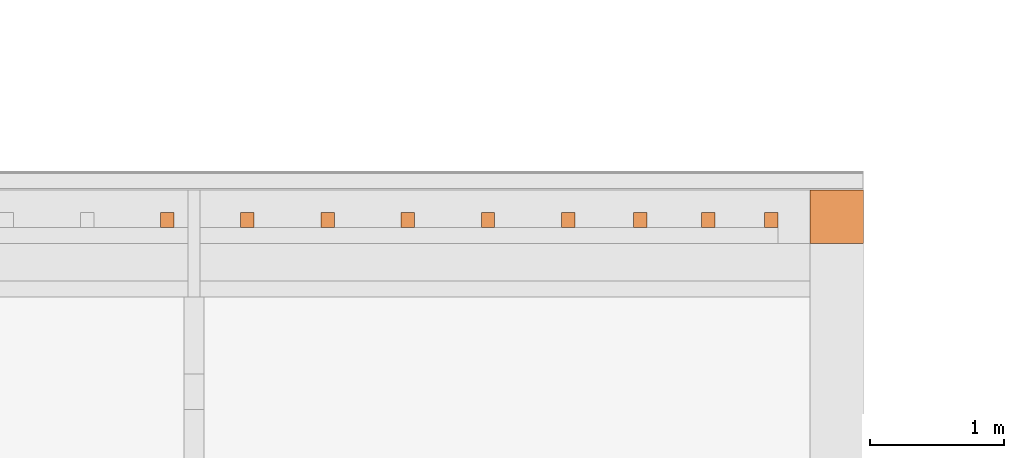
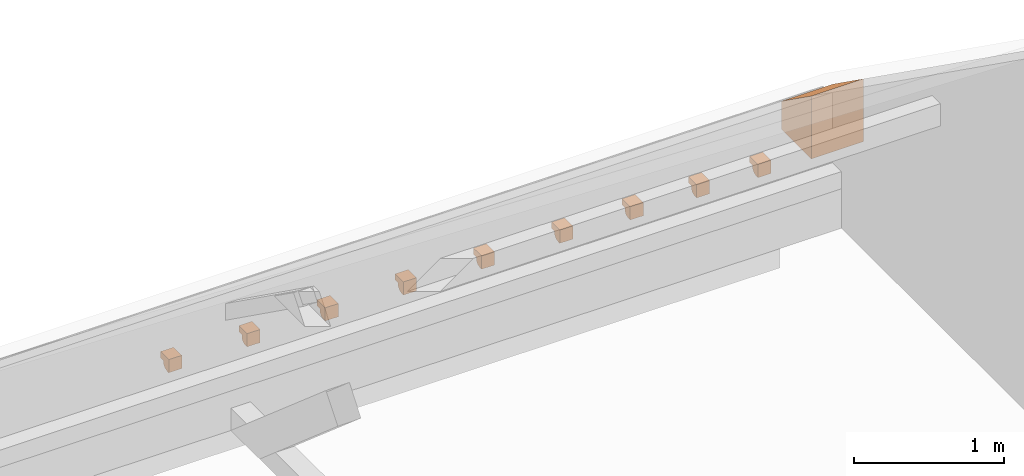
"""IFC4 building model written with IfcOpenShell, lengths in metres."""

from ifc_helpers import new_model, entity, si_unit, converted_unit, derived_unit, frame, origin, place, context, subcontext, project, spatial, faceted_brep, element, save


model = new_model("IFC4")

# Units and contexts
model_context = context("Model", 3, precision=1e-05, world=origin())
body_context = subcontext(model_context, "Body", "Model", "MODEL_VIEW")
ifc_project = project(units=[si_unit("LENGTHUNIT", "METRE"), si_unit("AREAUNIT", "SQUARE_METRE"), si_unit("VOLUMEUNIT", "CUBIC_METRE"), si_unit("MASSUNIT", "GRAM", prefix="KILO"), converted_unit("PLANEANGLEUNIT", "DEGREE", entity("IfcPlaneAngleMeasure", 0.0174532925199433), si_unit("PLANEANGLEUNIT", "RADIAN"), dimensions=[0, 0, 0, 0, 0, 0, 0]), derived_unit("THERMALTRANSMITTANCEUNIT", [(si_unit("POWERUNIT", "WATT"), 1), (si_unit("THERMODYNAMICTEMPERATUREUNIT", "KELVIN"), -1), (si_unit("LENGTHUNIT", "METRE"), -2)]), derived_unit("VOLUMETRICFLOWRATEUNIT", [(si_unit("LENGTHUNIT", "METRE"), 3), (converted_unit("TIMEUNIT", "hour", entity("IfcTimeMeasure", 3600.0), si_unit("TIMEUNIT", "SECOND"), dimensions=[0, 0, 1, 0, 0, 0, 0]), -1), (si_unit("LENGTHUNIT", "METRE"), -1)])], contexts=[model_context])

# Building, storeys
building_placement = place(None, origin())
building = spatial("IfcBuilding", under=ifc_project, at=building_placement, Name="Bestandsgebäude A - Sporthalle / Wohnhaus (TB 100-499)   ANPASSEN !!!", CompositionType="ELEMENT")
storey_1_placement = place(building_placement, frame((0.0, 0.0, 3.87)))
storey_1 = spatial("IfcBuildingStorey", under=building, at=storey_1_placement, Name="Geb. A 1. Obergeschoss (TB 250-299)", CompositionType="ELEMENT", Elevation=3.87)
storey_2_placement = place(storey_1_placement, frame((0.0, 0.0, 3.87)))
storey_2 = spatial("IfcBuildingStorey", under=storey_1, at=storey_2_placement, Name="Architektur (TB 250-259)", CompositionType="PARTIAL")

# Proxies
proxy_1_placement = place(storey_2_placement, frame((-10.7600000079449, 13.1200014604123, -1.12676065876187)))
element("IfcBuildingElementProxy", 1, at=proxy_1_placement, inside=storey_2, context=body_context, shape_type="Brep", body=[
    faceted_brep([(0.100000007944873, 0.0, 0.10676065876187), (0.100000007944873, 0.0, 0.0), (0.0, 0.0, 0.0), (0.0, 0.0, 0.10676065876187), (0.100000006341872, 0.0221942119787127, 0.0), (0.0, 0.0221942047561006, 0.0), (0.100000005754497, 0.0303266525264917, 0.00115963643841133), (0.0, 0.0303266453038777, 0.00115963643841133), (0.100000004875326, 0.0424991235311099, 0.00476296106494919), (0.0, 0.042499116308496, 0.00476296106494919), (0.100000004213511, 0.0516622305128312, 0.00852666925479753), (0.0, 0.0516622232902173, 0.00852666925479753), (0.10000000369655, 0.0588197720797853, 0.0140969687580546), (0.0, 0.0588197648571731, 0.0140969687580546), (0.100000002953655, 0.069105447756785, 0.0295254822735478), (0.0, 0.0691054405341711, 0.0295254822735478), (0.100000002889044, 0.0700000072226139, 0.0333518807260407), (0.0, 0.07, 0.0333518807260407), (0.100000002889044, 0.0700000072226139, 0.0567606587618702), (0.0, 0.07, 0.0567606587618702), (0.1, 0.110000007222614, 0.0567606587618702), (0.0, 0.11, 0.0567606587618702), (0.1, 0.110000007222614, 0.10676065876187), (0.0, 0.11, 0.10676065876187)], [[[0, 1, 2, 3]], [[1, 4, 5, 2]], [[4, 6, 7, 5]], [[6, 8, 9, 7]], [[8, 10, 11, 9]], [[10, 12, 13, 11]], [[12, 14, 15, 13]], [[14, 16, 17, 15]], [[16, 18, 19, 17]], [[18, 20, 21, 19]], [[20, 22, 23, 21]], [[22, 0, 3, 23]], [[0, 22, 20, 18, 16, 14, 12, 10, 8, 6, 4, 1]], [[3, 2, 5, 7, 9, 11, 13, 15, 17, 19, 21, 23]]], orient=[[False], [False], [False], [False], [False], [False], [False], [False], [False], [False], [False], [False], [False], [False]]),
])
proxy_2_placement = place(storey_2_placement, frame((-11.3600000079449, 13.1200014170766, -1.12676065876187)))
element("IfcBuildingElementProxy", 2, at=proxy_2_placement, inside=storey_2, context=body_context, shape_type="Brep", body=[
    faceted_brep([(0.100000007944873, 0.0, 0.10676065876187), (0.100000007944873, 0.0, 0.0), (0.0, 0.0, 0.0), (0.0, 0.0, 0.10676065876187), (0.100000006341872, 0.0221942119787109, 0.0), (0.0, 0.0221942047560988, 0.0), (0.100000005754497, 0.0303266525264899, 0.00115963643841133), (0.0, 0.0303266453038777, 0.00115963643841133), (0.100000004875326, 0.0424991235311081, 0.00476296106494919), (0.0, 0.042499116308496, 0.00476296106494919), (0.100000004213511, 0.0516622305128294, 0.00852666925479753), (0.0, 0.0516622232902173, 0.00852666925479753), (0.10000000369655, 0.0588197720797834, 0.0140969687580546), (0.0, 0.0588197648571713, 0.0140969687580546), (0.100000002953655, 0.0691054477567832, 0.0295254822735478), (0.0, 0.0691054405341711, 0.0295254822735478), (0.100000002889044, 0.0700000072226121, 0.0333518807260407), (0.0, 0.07, 0.0333518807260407), (0.100000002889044, 0.0700000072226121, 0.0567606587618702), (0.0, 0.07, 0.0567606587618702), (0.1, 0.110000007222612, 0.0567606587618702), (0.0, 0.11, 0.0567606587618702), (0.1, 0.110000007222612, 0.10676065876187), (0.0, 0.11, 0.10676065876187)], [[[0, 1, 2, 3]], [[1, 4, 5, 2]], [[4, 6, 7, 5]], [[6, 8, 9, 7]], [[8, 10, 11, 9]], [[10, 12, 13, 11]], [[12, 14, 15, 13]], [[14, 16, 17, 15]], [[16, 18, 19, 17]], [[18, 20, 21, 19]], [[20, 22, 23, 21]], [[22, 0, 3, 23]], [[0, 22, 20, 18, 16, 14, 12, 10, 8, 6, 4, 1]], [[3, 2, 5, 7, 9, 11, 13, 15, 17, 19, 21, 23]]], orient=[[False], [False], [False], [False], [False], [False], [False], [False], [False], [False], [False], [False], [False], [False]]),
])
proxy_3_placement = place(storey_2_placement, frame((-12.5600000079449, 13.1200013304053, -1.12676065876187)))
element("IfcBuildingElementProxy", 3, at=proxy_3_placement, inside=storey_2, context=body_context, shape_type="Brep", body=[
    faceted_brep([(0.100000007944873, 0.0, 0.10676065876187), (0.100000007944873, 0.0, 0.0), (0.0, 0.0, 0.0), (0.0, 0.0, 0.10676065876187), (0.100000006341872, 0.0221942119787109, 0.0), (0.0, 0.022194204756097, 0.0), (0.100000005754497, 0.030326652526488, 0.00115963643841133), (0.0, 0.0303266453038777, 0.00115963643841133), (0.100000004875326, 0.0424991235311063, 0.00476296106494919), (0.0, 0.042499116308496, 0.00476296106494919), (0.100000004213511, 0.0516622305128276, 0.00852666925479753), (0.0, 0.0516622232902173, 0.00852666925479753), (0.100000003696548, 0.0588197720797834, 0.0140969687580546), (0.0, 0.0588197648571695, 0.0140969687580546), (0.100000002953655, 0.0691054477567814, 0.0295254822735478), (0.0, 0.0691054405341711, 0.0295254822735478), (0.100000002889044, 0.0700000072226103, 0.0333518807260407), (0.0, 0.07, 0.0333518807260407), (0.100000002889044, 0.0700000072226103, 0.0567606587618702), (0.0, 0.07, 0.0567606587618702), (0.0999999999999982, 0.11000000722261, 0.0567606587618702), (0.0, 0.11, 0.0567606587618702), (0.0999999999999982, 0.11000000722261, 0.10676065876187), (0.0, 0.11, 0.10676065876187)], [[[0, 1, 2, 3]], [[1, 4, 5, 2]], [[4, 6, 7, 5]], [[6, 8, 9, 7]], [[8, 10, 11, 9]], [[10, 12, 13, 11]], [[12, 14, 15, 13]], [[14, 16, 17, 15]], [[16, 18, 19, 17]], [[18, 20, 21, 19]], [[20, 22, 23, 21]], [[22, 0, 3, 23]], [[0, 22, 20, 18, 16, 14, 12, 10, 8, 6, 4, 1]], [[3, 2, 5, 7, 9, 11, 13, 15, 17, 19, 21, 23]]], orient=[[False], [False], [False], [False], [False], [False], [False], [False], [False], [False], [False], [False], [False], [False]]),
])
proxy_4_placement = place(storey_2_placement, frame((-11.9600000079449, 13.1200013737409, -1.12676065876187)))
element("IfcBuildingElementProxy", 4, at=proxy_4_placement, inside=storey_2, context=body_context, shape_type="Brep", body=[
    faceted_brep([(0.100000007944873, 0.0, 0.10676065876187), (0.100000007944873, 0.0, 0.0), (0.0, 0.0, 0.0), (0.0, 0.0, 0.10676065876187), (0.100000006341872, 0.0221942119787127, 0.0), (0.0, 0.0221942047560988, 0.0), (0.100000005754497, 0.0303266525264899, 0.00115963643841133), (0.0, 0.0303266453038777, 0.00115963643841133), (0.100000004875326, 0.0424991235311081, 0.00476296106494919), (0.0, 0.042499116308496, 0.00476296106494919), (0.100000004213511, 0.0516622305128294, 0.00852666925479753), (0.0, 0.0516622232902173, 0.00852666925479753), (0.100000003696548, 0.0588197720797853, 0.0140969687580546), (0.0, 0.0588197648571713, 0.0140969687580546), (0.100000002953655, 0.0691054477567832, 0.0295254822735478), (0.0, 0.0691054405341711, 0.0295254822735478), (0.100000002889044, 0.0700000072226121, 0.0333518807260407), (0.0, 0.07, 0.0333518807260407), (0.100000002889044, 0.0700000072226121, 0.0567606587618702), (0.0, 0.07, 0.0567606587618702), (0.1, 0.110000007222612, 0.0567606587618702), (0.0, 0.11, 0.0567606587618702), (0.1, 0.110000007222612, 0.10676065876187), (0.0, 0.11, 0.10676065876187)], [[[0, 1, 2, 3]], [[1, 4, 5, 2]], [[4, 6, 7, 5]], [[6, 8, 9, 7]], [[8, 10, 11, 9]], [[10, 12, 13, 11]], [[12, 14, 15, 13]], [[14, 16, 17, 15]], [[16, 18, 19, 17]], [[18, 20, 21, 19]], [[20, 22, 23, 21]], [[22, 0, 3, 23]], [[0, 22, 20, 18, 16, 14, 12, 10, 8, 6, 4, 1]], [[3, 2, 5, 7, 9, 11, 13, 15, 17, 19, 21, 23]]], orient=[[False], [False], [False], [False], [False], [False], [False], [False], [False], [False], [False], [False], [False], [False]]),
])
proxy_5_placement = place(storey_2_placement, frame((-13.1600000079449, 13.1200012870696, -1.12676065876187)))
element("IfcBuildingElementProxy", 5, at=proxy_5_placement, inside=storey_2, context=body_context, shape_type="Brep", body=[
    faceted_brep([(0.100000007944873, 0.0, 0.10676065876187), (0.100000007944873, 0.0, 0.0), (0.0, 0.0, 0.0), (0.0, 0.0, 0.10676065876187), (0.100000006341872, 0.0221942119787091, 0.0), (0.0, 0.0221942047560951, 0.0), (0.100000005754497, 0.030326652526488, 0.00115963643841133), (0.0, 0.0303266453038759, 0.00115963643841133), (0.100000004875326, 0.0424991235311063, 0.00476296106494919), (0.0, 0.0424991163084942, 0.00476296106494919), (0.100000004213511, 0.0516622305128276, 0.00852666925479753), (0.0, 0.0516622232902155, 0.00852666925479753), (0.100000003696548, 0.0588197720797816, 0.0140969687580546), (0.0, 0.0588197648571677, 0.0140969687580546), (0.100000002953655, 0.0691054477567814, 0.0295254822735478), (0.0, 0.0691054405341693, 0.0295254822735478), (0.100000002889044, 0.0700000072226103, 0.0333518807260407), (0.0, 0.0699999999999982, 0.0333518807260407), (0.100000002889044, 0.0700000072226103, 0.0567606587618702), (0.0, 0.0699999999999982, 0.0567606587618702), (0.0999999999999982, 0.11000000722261, 0.0567606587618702), (0.0, 0.109999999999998, 0.0567606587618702), (0.0999999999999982, 0.11000000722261, 0.10676065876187), (0.0, 0.109999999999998, 0.10676065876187)], [[[0, 1, 2, 3]], [[1, 4, 5, 2]], [[4, 6, 7, 5]], [[6, 8, 9, 7]], [[8, 10, 11, 9]], [[10, 12, 13, 11]], [[12, 14, 15, 13]], [[14, 16, 17, 15]], [[16, 18, 19, 17]], [[18, 20, 21, 19]], [[20, 22, 23, 21]], [[22, 0, 3, 23]], [[0, 22, 20, 18, 16, 14, 12, 10, 8, 6, 4, 1]], [[3, 2, 5, 7, 9, 11, 13, 15, 17, 19, 21, 23]]], orient=[[False], [False], [False], [False], [False], [False], [False], [False], [False], [False], [False], [False], [False], [False]]),
])
proxy_6_placement = place(storey_2_placement, frame((-13.7600000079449, 13.1200012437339, -1.12676065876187)))
element("IfcBuildingElementProxy", 6, at=proxy_6_placement, inside=storey_2, context=body_context, shape_type="Brep", body=[
    faceted_brep([(0.100000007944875, 0.0, 0.10676065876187), (0.100000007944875, 0.0, 0.0), (0.0, 0.0, 0.0), (0.0, 0.0, 0.10676065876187), (0.100000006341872, 0.0221942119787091, 0.0), (0.0, 0.022194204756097, 0.0), (0.100000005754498, 0.030326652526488, 0.00115963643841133), (0.0, 0.0303266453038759, 0.00115963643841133), (0.100000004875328, 0.0424991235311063, 0.00476296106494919), (0.0, 0.0424991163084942, 0.00476296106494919), (0.100000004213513, 0.0516622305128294, 0.00852666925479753), (0.0, 0.0516622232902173, 0.00852666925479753), (0.10000000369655, 0.0588197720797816, 0.0140969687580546), (0.0, 0.0588197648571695, 0.0140969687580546), (0.100000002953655, 0.0691054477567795, 0.0295254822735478), (0.0, 0.0691054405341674, 0.0295254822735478), (0.100000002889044, 0.0700000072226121, 0.0333518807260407), (0.0, 0.07, 0.0333518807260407), (0.100000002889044, 0.0700000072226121, 0.0567606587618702), (0.0, 0.07, 0.0567606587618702), (0.1, 0.110000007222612, 0.0567606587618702), (0.0, 0.11, 0.0567606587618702), (0.1, 0.110000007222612, 0.10676065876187), (0.0, 0.11, 0.10676065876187)], [[[0, 1, 2, 3]], [[1, 4, 5, 2]], [[4, 6, 7, 5]], [[6, 8, 9, 7]], [[8, 10, 11, 9]], [[10, 12, 13, 11]], [[12, 14, 15, 13]], [[14, 16, 17, 15]], [[16, 18, 19, 17]], [[18, 20, 21, 19]], [[20, 22, 23, 21]], [[22, 0, 3, 23]], [[0, 22, 20, 18, 16, 14, 12, 10, 8, 6, 4, 1]], [[3, 2, 5, 7, 9, 11, 13, 15, 17, 19, 21, 23]]], orient=[[False], [False], [False], [False], [False], [False], [False], [False], [False], [False], [False], [False], [False], [False]]),
])
proxy_7_placement = place(storey_2_placement, frame((-9.24000000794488, 13.1199999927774, -1.12676065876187)))
element("IfcBuildingElementProxy", 7, at=proxy_7_placement, inside=storey_2, context=body_context, shape_type="Brep", body=[
    faceted_brep([(0.100000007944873, 0.0, 0.10676065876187), (0.100000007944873, 0.0, 0.0), (0.0, 0.0, 0.0), (0.0, 0.0, 0.10676065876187), (0.100000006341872, 0.0221942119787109, 0.0), (0.0, 0.0221942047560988, 0.0), (0.100000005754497, 0.0303266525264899, 0.00115963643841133), (0.0, 0.0303266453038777, 0.00115963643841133), (0.100000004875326, 0.0424991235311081, 0.00476296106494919), (0.0, 0.042499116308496, 0.00476296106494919), (0.100000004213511, 0.0516622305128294, 0.00852666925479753), (0.0, 0.0516622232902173, 0.00852666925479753), (0.100000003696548, 0.0588197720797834, 0.0140969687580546), (0.0, 0.0588197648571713, 0.0140969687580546), (0.100000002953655, 0.0691054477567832, 0.0295254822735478), (0.0, 0.0691054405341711, 0.0295254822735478), (0.100000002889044, 0.0700000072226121, 0.0333518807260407), (0.0, 0.07, 0.0333518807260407), (0.100000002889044, 0.0700000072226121, 0.0567606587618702), (0.0, 0.07, 0.0567606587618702), (0.0999999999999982, 0.110000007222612, 0.0567606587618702), (0.0, 0.11, 0.0567606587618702), (0.0999999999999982, 0.110000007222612, 0.10676065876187), (0.0, 0.11, 0.10676065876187)], [[[0, 1, 2, 3]], [[1, 4, 5, 2]], [[4, 6, 7, 5]], [[6, 8, 9, 7]], [[8, 10, 11, 9]], [[10, 12, 13, 11]], [[12, 14, 15, 13]], [[14, 16, 17, 15]], [[16, 18, 19, 17]], [[18, 20, 21, 19]], [[20, 22, 23, 21]], [[22, 0, 3, 23]], [[0, 22, 20, 18, 16, 14, 12, 10, 8, 6, 4, 1]], [[3, 2, 5, 7, 9, 11, 13, 15, 17, 19, 21, 23]]], orient=[[False], [False], [False], [False], [False], [False], [False], [False], [False], [False], [False], [False], [False], [False]]),
])
proxy_8_placement = place(storey_2_placement, frame((-9.71000000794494, 13.1200015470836, -1.12676065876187)))
element("IfcBuildingElementProxy", 8, at=proxy_8_placement, inside=storey_2, context=body_context, shape_type="Brep", body=[
    faceted_brep([(0.100000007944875, 0.0, 0.10676065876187), (0.100000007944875, 0.0, 0.0), (0.0, 0.0, 0.0), (0.0, 0.0, 0.10676065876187), (0.100000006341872, 0.0221942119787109, 0.0), (0.0, 0.0221942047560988, 0.0), (0.100000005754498, 0.0303266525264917, 0.00115963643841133), (0.0, 0.0303266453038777, 0.00115963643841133), (0.100000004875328, 0.0424991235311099, 0.00476296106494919), (0.0, 0.042499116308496, 0.00476296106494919), (0.100000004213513, 0.0516622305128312, 0.00852666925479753), (0.0, 0.0516622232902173, 0.00852666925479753), (0.10000000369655, 0.0588197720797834, 0.0140969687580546), (0.0, 0.0588197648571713, 0.0140969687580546), (0.100000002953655, 0.069105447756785, 0.0295254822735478), (0.0, 0.0691054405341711, 0.0295254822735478), (0.100000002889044, 0.0700000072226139, 0.0333518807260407), (0.0, 0.07, 0.0333518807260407), (0.100000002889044, 0.0700000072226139, 0.0567606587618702), (0.0, 0.07, 0.0567606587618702), (0.1, 0.110000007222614, 0.0567606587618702), (0.0, 0.11, 0.0567606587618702), (0.1, 0.110000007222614, 0.10676065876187), (0.0, 0.11, 0.10676065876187)], [[[0, 1, 2, 3]], [[1, 4, 5, 2]], [[4, 6, 7, 5]], [[6, 8, 9, 7]], [[8, 10, 11, 9]], [[10, 12, 13, 11]], [[12, 14, 15, 13]], [[14, 16, 17, 15]], [[16, 18, 19, 17]], [[18, 20, 21, 19]], [[20, 22, 23, 21]], [[22, 0, 3, 23]], [[0, 22, 20, 18, 16, 14, 12, 10, 8, 6, 4, 1]], [[3, 2, 5, 7, 9, 11, 13, 15, 17, 19, 21, 23]]], orient=[[False], [False], [False], [False], [False], [False], [False], [False], [False], [False], [False], [False], [False], [False]]),
])
proxy_9_placement = place(storey_2_placement, frame((-8.9, 13.0, -1.02)))
element("IfcBuildingElementProxy", 9, at=proxy_9_placement, inside=storey_2, context=body_context, shape_type="Brep", body=[
    faceted_brep([(0.399999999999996, 0.0, 0.509685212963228), (0.399999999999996, 0.399045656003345, 0.225468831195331), (0.399999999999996, 0.399045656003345, 0.0), (0.399999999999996, 0.0, 0.0), (0.0, 0.399045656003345, 0.225468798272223), (0.0, 0.399045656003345, 0.0), (0.0, 0.0, 0.0), (0.0, 0.0, 0.50968518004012)], [[[0, 1, 2, 3]], [[2, 1, 4, 5]], [[3, 2, 5, 6]], [[4, 1, 0, 7]], [[6, 5, 4, 7]], [[0, 3, 6, 7]]], orient=[[False], [False], [False], [False], [False], [False]]),
])
proxy_10_placement = place(storey_2_placement, frame((-10.2200000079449, 13.1200015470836, -1.12676065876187)))
element("IfcBuildingElementProxy", 10, at=proxy_10_placement, inside=storey_2, context=body_context, shape_type="Brep", body=[
    faceted_brep([(0.100000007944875, 0.0, 0.10676065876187), (0.100000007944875, 0.0, 0.0), (0.0, 0.0, 0.0), (0.0, 0.0, 0.10676065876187), (0.100000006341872, 0.0221942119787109, 0.0), (0.0, 0.0221942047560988, 0.0), (0.100000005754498, 0.0303266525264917, 0.00115963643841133), (0.0, 0.0303266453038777, 0.00115963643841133), (0.100000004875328, 0.0424991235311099, 0.00476296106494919), (0.0, 0.042499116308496, 0.00476296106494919), (0.100000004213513, 0.0516622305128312, 0.00852666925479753), (0.0, 0.0516622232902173, 0.00852666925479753), (0.10000000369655, 0.0588197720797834, 0.0140969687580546), (0.0, 0.0588197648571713, 0.0140969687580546), (0.100000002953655, 0.069105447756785, 0.0295254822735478), (0.0, 0.0691054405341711, 0.0295254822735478), (0.100000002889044, 0.0700000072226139, 0.0333518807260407), (0.0, 0.07, 0.0333518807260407), (0.100000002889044, 0.0700000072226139, 0.0567606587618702), (0.0, 0.07, 0.0567606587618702), (0.1, 0.110000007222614, 0.0567606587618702), (0.0, 0.11, 0.0567606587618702), (0.1, 0.110000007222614, 0.10676065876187), (0.0, 0.11, 0.10676065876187)], [[[0, 1, 2, 3]], [[1, 4, 5, 2]], [[4, 6, 7, 5]], [[6, 8, 9, 7]], [[8, 10, 11, 9]], [[10, 12, 13, 11]], [[12, 14, 15, 13]], [[14, 16, 17, 15]], [[16, 18, 19, 17]], [[18, 20, 21, 19]], [[20, 22, 23, 21]], [[22, 0, 3, 23]], [[0, 22, 20, 18, 16, 14, 12, 10, 8, 6, 4, 1]], [[3, 2, 5, 7, 9, 11, 13, 15, 17, 19, 21, 23]]], orient=[[False], [False], [False], [False], [False], [False], [False], [False], [False], [False], [False], [False], [False], [False]]),
])

save(model, "model.ifc")
